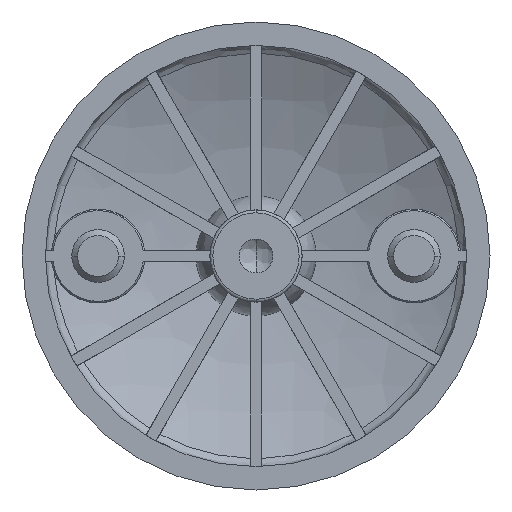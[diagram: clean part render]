
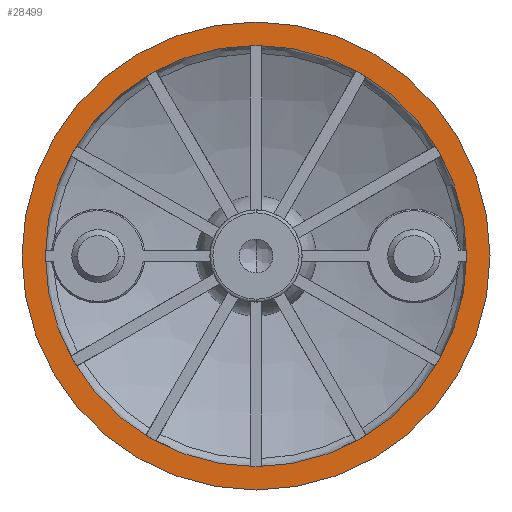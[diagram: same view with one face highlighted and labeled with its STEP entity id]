
A CAD part, front view. The second image highlights one B-rep face of the part: STEP entity #28499.
In plain terms, the highlighted planar face has unit normal (0, -1, 0).
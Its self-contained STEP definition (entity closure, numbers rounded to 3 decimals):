
#31 = AXIS2_PLACEMENT_3D ( 'NONE', #4122, #13373, #17831 ) ;
#571 = DIRECTION ( 'NONE',  ( 0., 0., -1. ) ) ;
#573 = DIRECTION ( 'NONE',  ( 0., 0., -1. ) ) ;
#837 = DIRECTION ( 'NONE',  ( 0., 1., 0. ) ) ;
#905 = CARTESIAN_POINT ( 'NONE',  ( 0., 0., -40. ) ) ;
#2578 = FACE_BOUND ( 'NONE', #11987, .T. ) ;
#2855 = CIRCLE ( 'NONE', #31, 40. ) ;
#3988 = FACE_OUTER_BOUND ( 'NONE', #9949, .T. ) ;
#4122 = CARTESIAN_POINT ( 'NONE',  ( 0., 0., 0. ) ) ;
#6113 = ORIENTED_EDGE ( 'NONE', *, *, #15936, .F. ) ;
#8102 = CIRCLE ( 'NONE', #16004, 36. ) ;
#8302 = VERTEX_POINT ( 'NONE', #11983 ) ;
#9849 = CARTESIAN_POINT ( 'NONE',  ( 0., 0., 0. ) ) ;
#9949 = EDGE_LOOP ( 'NONE', ( #27267, #6113 ) ) ;
#11024 = DIRECTION ( 'NONE',  ( 0., -1., 0. ) ) ;
#11700 = CARTESIAN_POINT ( 'NONE',  ( 0., 0., 0. ) ) ;
#11916 = EDGE_CURVE ( 'NONE', #8302, #28631, #8102, .T. ) ;
#11983 = CARTESIAN_POINT ( 'NONE',  ( 0., 0., 36. ) ) ;
#11987 = EDGE_LOOP ( 'NONE', ( #15441, #28047 ) ) ;
#12910 = VERTEX_POINT ( 'NONE', #905 ) ;
#13031 = CIRCLE ( 'NONE', #20875, 36. ) ;
#13373 = DIRECTION ( 'NONE',  ( 0., 1., 0. ) ) ;
#14020 = DIRECTION ( 'NONE',  ( 0., 1., 0. ) ) ;
#15441 = ORIENTED_EDGE ( 'NONE', *, *, #25003, .T. ) ;
#15936 = EDGE_CURVE ( 'NONE', #22754, #12910, #2855, .T. ) ;
#16004 = AXIS2_PLACEMENT_3D ( 'NONE', #11700, #14020, #571 ) ;
#17831 = DIRECTION ( 'NONE',  ( 0., 0., -1. ) ) ;
#18254 = EDGE_CURVE ( 'NONE', #12910, #22754, #22102, .T. ) ;
#18952 = CARTESIAN_POINT ( 'NONE',  ( 0., 0., 0. ) ) ;
#20875 = AXIS2_PLACEMENT_3D ( 'NONE', #9849, #25390, #573 ) ;
#20893 = AXIS2_PLACEMENT_3D ( 'NONE', #18952, #837, #25551 ) ;
#22102 = CIRCLE ( 'NONE', #20893, 40. ) ;
#22567 = PLANE ( 'NONE',  #24531 ) ;
#22754 = VERTEX_POINT ( 'NONE', #24019 ) ;
#24019 = CARTESIAN_POINT ( 'NONE',  ( 0., 0., 40. ) ) ;
#24313 = CARTESIAN_POINT ( 'NONE',  ( 0., 0., -36. ) ) ;
#24531 = AXIS2_PLACEMENT_3D ( 'NONE', #24313, #11024, #26562 ) ;
#25003 = EDGE_CURVE ( 'NONE', #28631, #8302, #13031, .T. ) ;
#25390 = DIRECTION ( 'NONE',  ( 0., 1., 0. ) ) ;
#25551 = DIRECTION ( 'NONE',  ( 0., 0., -1. ) ) ;
#26562 = DIRECTION ( 'NONE',  ( 0., 0., -1. ) ) ;
#27267 = ORIENTED_EDGE ( 'NONE', *, *, #18254, .F. ) ;
#28047 = ORIENTED_EDGE ( 'NONE', *, *, #11916, .T. ) ;
#28499 = ADVANCED_FACE ( 'NONE', ( #2578, #3988 ), #22567, .T. ) ;
#28631 = VERTEX_POINT ( 'NONE', #28814 ) ;
#28814 = CARTESIAN_POINT ( 'NONE',  ( 0., 0., -36. ) ) ;
